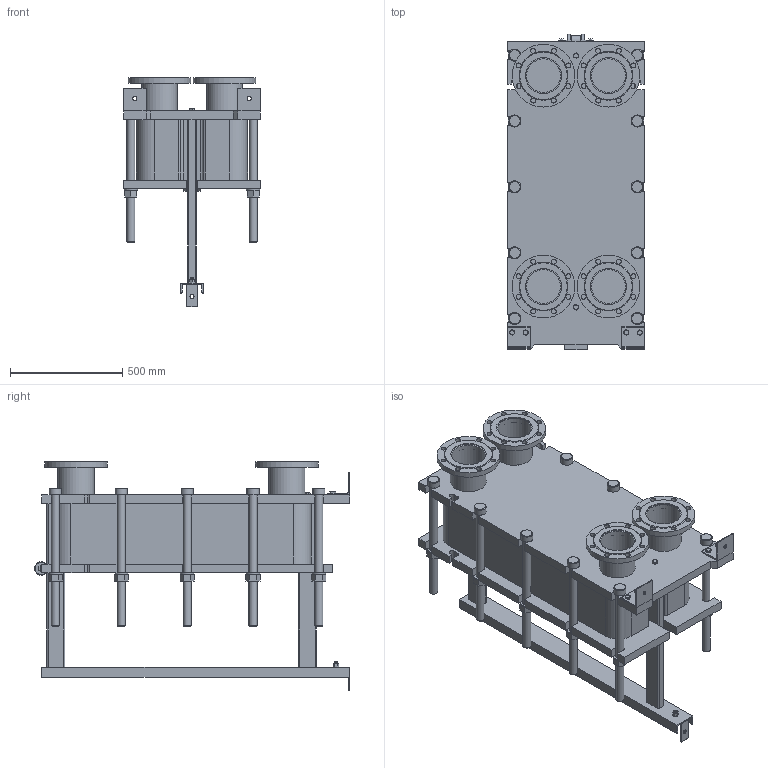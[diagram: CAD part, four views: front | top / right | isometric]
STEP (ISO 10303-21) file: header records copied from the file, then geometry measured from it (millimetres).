
FILE_DESCRIPTION(/* description */ (''),/* implementation_level */ '2;1');
FILE_NAME(/* name */ 'C:\Users\zhuro\Desktop\ENCO\TO\ЭН-041\ЭН-0,5-041-78-1.stp',/* time_stamp */ '2022-06-06T10:56:01+03:00',/* author */ ('zhuro'),/* organization */ (''),/* preprocessor_version */ 'ST-DEVELOPER v18.1',/* originating_system */ 'Autodesk Inventor 2022',/* authorisation */ '');
FILE_SCHEMA (('AUTOMOTIVE_DESIGN { 1 0 10303 214 3 1 1 }'));
Length unit declared in the file: millimetre
Products named in the file (1): ЭН-0,5-041-78-1
Bounding box: 610 x 1406.5 x 1025 mm (x, y, z)
Volume: 230279027.3 mm3; surface area: 8539429.2 mm2
Topology: 52 solids, 52 shells, 711 faces, 1696 edges, 1094 vertices
Faces by surface type: plane 487, cylinder 177, cone 41, torus 6
Full cylindrical faces by diameter (mm): 8 x4, 10 x2, 16 x8, 18 x3, 22 x32, 36 x24, 50 x1, 54 x10, 60 x12, 151 x4, 161 x8, 280 x4
Entity records: 22667 total; most frequent: CARTESIAN_POINT 5230, DIRECTION 3644, ORIENTED_EDGE 3392, EDGE_CURVE 1696, AXIS2_PLACEMENT_3D 1272, LINE 1100, VECTOR 1100, VERTEX_POINT 1094
